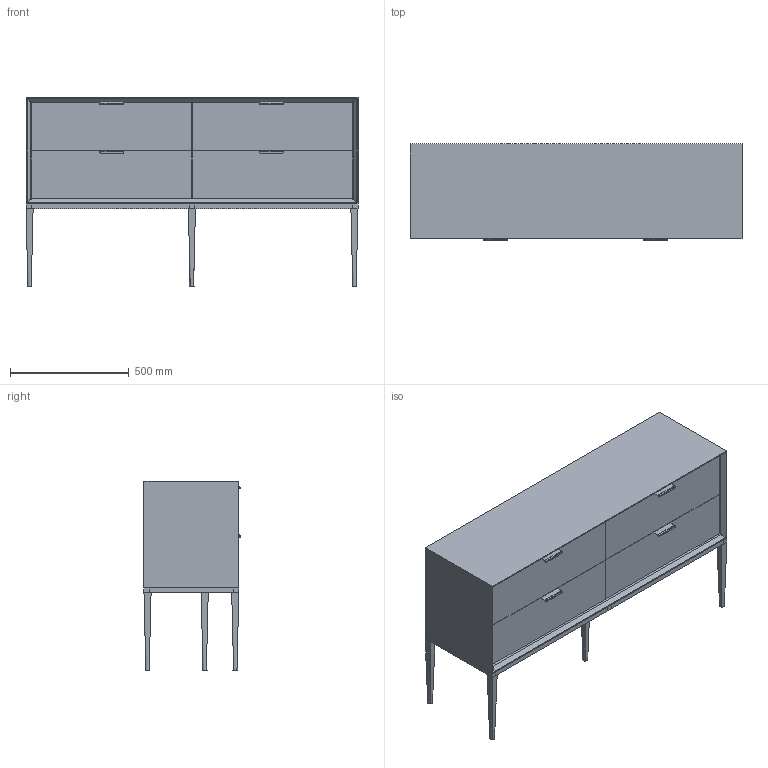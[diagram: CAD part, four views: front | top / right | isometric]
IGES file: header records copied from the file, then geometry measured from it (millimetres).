
Global section: file name: 16HC:\Users\Monika; native system: Rhinoceros ( Feb  8 2022 ); preprocessor: Trout Lake IGES 012 Feb  8 2022; date: 230924.002221; units: millimetre
Bounding box: 1400 x 405.12 x 800 mm (x, y, z)
Surface area: 9332121.2 mm2 (no closed solid volume)
Topology: 0 solids, 0 shells, 159 faces, 993 edges, 994 vertices
Faces by surface type: bspline 159
